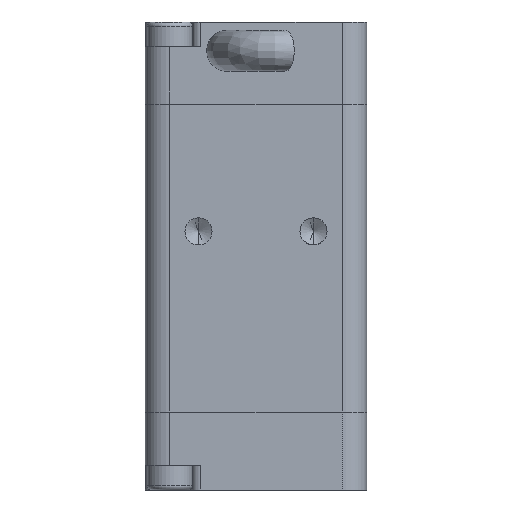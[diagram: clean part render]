
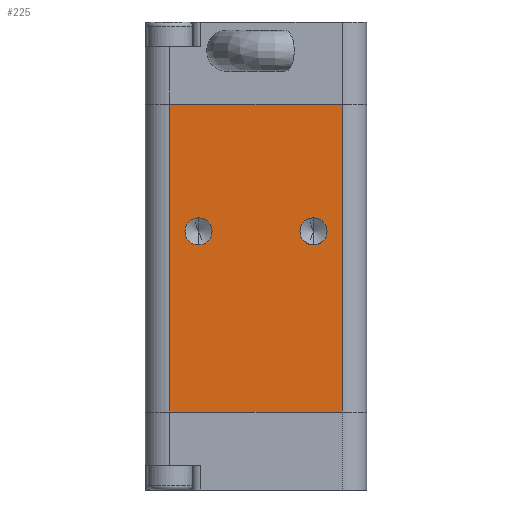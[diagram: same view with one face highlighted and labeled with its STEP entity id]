
A CAD part, front view. The second image highlights one B-rep face of the part: STEP entity #225.
In plain terms, the highlighted planar face has unit normal (0, -1, 0).
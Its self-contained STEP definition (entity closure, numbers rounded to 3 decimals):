
#57=PLANE('',#2441);
#112=FACE_BOUND('',#546,.T.);
#113=FACE_BOUND('',#547,.T.);
#114=FACE_BOUND('',#548,.T.);
#225=ADVANCED_FACE('',(#112,#113,#114),#57,.F.);
#546=EDGE_LOOP('',(#1210,#1211));
#547=EDGE_LOOP('',(#1212,#1213));
#548=EDGE_LOOP('',(#1214,#1215,#1216,#1217));
#722=LINE('',#3719,#908);
#744=LINE('',#3774,#930);
#746=LINE('',#3782,#932);
#747=LINE('',#3784,#933);
#908=VECTOR('',#2825,1.);
#930=VECTOR('',#2873,1.);
#932=VECTOR('',#2883,1.);
#933=VECTOR('',#2884,1.);
#1210=ORIENTED_EDGE('',*,*,#2043,.F.);
#1211=ORIENTED_EDGE('',*,*,#1917,.F.);
#1212=ORIENTED_EDGE('',*,*,#2044,.F.);
#1213=ORIENTED_EDGE('',*,*,#2004,.F.);
#1214=ORIENTED_EDGE('',*,*,#2040,.T.);
#1215=ORIENTED_EDGE('',*,*,#2012,.T.);
#1216=ORIENTED_EDGE('',*,*,#2045,.T.);
#1217=ORIENTED_EDGE('',*,*,#2046,.F.);
#1705=VERTEX_POINT('',#3371);
#1706=VERTEX_POINT('',#3373);
#1782=VERTEX_POINT('',#3683);
#1783=VERTEX_POINT('',#3685);
#1784=VERTEX_POINT('',#3689);
#1790=VERTEX_POINT('',#3720);
#1810=VERTEX_POINT('',#3775);
#1812=VERTEX_POINT('',#3783);
#1917=EDGE_CURVE('',#1705,#1706,#2224,.T.);
#2004=EDGE_CURVE('',#1782,#1783,#2266,.T.);
#2012=EDGE_CURVE('',#1784,#1790,#722,.T.);
#2040=EDGE_CURVE('',#1810,#1784,#744,.T.);
#2043=EDGE_CURVE('',#1706,#1705,#2276,.T.);
#2044=EDGE_CURVE('',#1783,#1782,#2277,.T.);
#2045=EDGE_CURVE('',#1790,#1812,#746,.T.);
#2046=EDGE_CURVE('',#1810,#1812,#747,.T.);
#2224=CIRCLE('',#2355,1.65);
#2266=CIRCLE('',#2419,1.65);
#2276=CIRCLE('',#2439,1.65);
#2277=CIRCLE('',#2440,1.65);
#2355=AXIS2_PLACEMENT_3D('',#3372,#2646,#2647);
#2419=AXIS2_PLACEMENT_3D('',#3684,#2812,#2813);
#2439=AXIS2_PLACEMENT_3D('',#3780,#2879,#2880);
#2440=AXIS2_PLACEMENT_3D('',#3781,#2881,#2882);
#2441=AXIS2_PLACEMENT_3D('',#3785,#2885,#2886);
#2646=DIRECTION('',(0.,-1.,0.));
#2647=DIRECTION('',(0.,0.,-1.));
#2812=DIRECTION('',(0.,-1.,0.));
#2813=DIRECTION('',(0.,0.,-1.));
#2825=DIRECTION('',(-1.,0.,0.));
#2873=DIRECTION('',(0.,0.,1.));
#2879=DIRECTION('',(0.,-1.,0.));
#2880=DIRECTION('',(0.,0.,-1.));
#2881=DIRECTION('',(0.,-1.,0.));
#2882=DIRECTION('',(0.,0.,-1.));
#2883=DIRECTION('',(0.,0.,-1.));
#2884=DIRECTION('',(-1.,0.,0.));
#2885=DIRECTION('',(0.,1.,0.));
#2886=DIRECTION('',(1.,0.,0.));
#3371=CARTESIAN_POINT('',(-7.,-13.5,4.65));
#3372=CARTESIAN_POINT('',(-7.,-13.5,3.));
#3373=CARTESIAN_POINT('',(-7.,-13.5,1.35));
#3683=CARTESIAN_POINT('',(7.,-13.5,4.65));
#3684=CARTESIAN_POINT('',(7.,-13.5,3.));
#3685=CARTESIAN_POINT('',(7.,-13.5,1.35));
#3689=CARTESIAN_POINT('',(10.5,-13.5,18.5));
#3719=CARTESIAN_POINT('',(13.5,-13.5,18.5));
#3720=CARTESIAN_POINT('',(-10.5,-13.5,18.5));
#3774=CARTESIAN_POINT('',(10.5,-13.5,28.5));
#3775=CARTESIAN_POINT('',(10.5,-13.5,-19.));
#3780=CARTESIAN_POINT('',(-7.,-13.5,3.));
#3781=CARTESIAN_POINT('',(7.,-13.5,3.));
#3782=CARTESIAN_POINT('',(-10.5,-13.5,28.5));
#3783=CARTESIAN_POINT('',(-10.5,-13.5,-19.));
#3784=CARTESIAN_POINT('',(13.5,-13.5,-19.));
#3785=CARTESIAN_POINT('',(13.5,-13.5,28.5));
